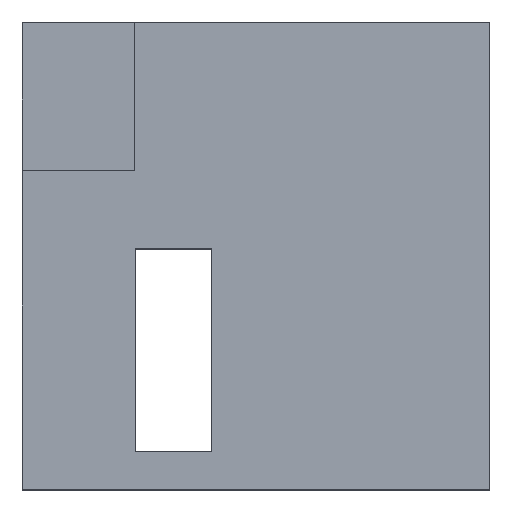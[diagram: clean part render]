
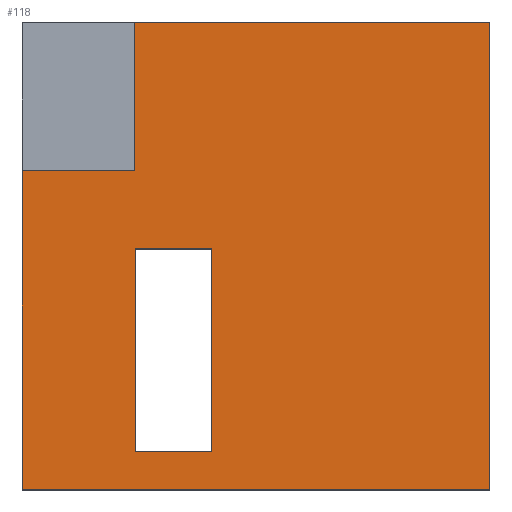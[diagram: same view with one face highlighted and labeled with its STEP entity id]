
A CAD part, top view. The second image highlights one B-rep face of the part: STEP entity #118.
In plain terms, the highlighted planar face has unit normal (0, 0, 1).
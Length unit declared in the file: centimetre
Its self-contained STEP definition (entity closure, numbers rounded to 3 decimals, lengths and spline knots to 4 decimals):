
#7 = EDGE_CURVE ( 'NONE', #47, #10, #600, .T. ) ;
#8 = DIRECTION ( 'NONE',  ( 0., 1., 0. ) ) ;
#10 = VERTEX_POINT ( 'NONE', #172 ) ;
#14 = CARTESIAN_POINT ( 'NONE',  ( 0., 1000., 1000. ) ) ;
#27 = DIRECTION ( 'NONE',  ( -1., 0., 0. ) ) ;
#28 = EDGE_LOOP ( 'NONE', ( #518, #77, #84, #473 ) ) ;
#32 = FACE_OUTER_BOUND ( 'NONE', #163, .T. ) ;
#35 = CARTESIAN_POINT ( 'NONE',  ( 242.1861, 79.9938, 1000. ) ) ;
#36 = VERTEX_POINT ( 'NONE', #323 ) ;
#37 = CARTESIAN_POINT ( 'NONE',  ( 1000., 0., 1000. ) ) ;
#47 = VERTEX_POINT ( 'NONE', #361 ) ;
#59 = LINE ( 'NONE', #248, #70 ) ;
#68 = VECTOR ( 'NONE', #8, 100. ) ;
#70 = VECTOR ( 'NONE', #202, 100. ) ;
#71 = VECTOR ( 'NONE', #174, 100. ) ;
#77 = ORIENTED_EDGE ( 'NONE', *, *, #224, .F. ) ;
#84 = ORIENTED_EDGE ( 'NONE', *, *, #326, .F. ) ;
#99 = CARTESIAN_POINT ( 'NONE',  ( 1000., 1000., 1000. ) ) ;
#101 = ORIENTED_EDGE ( 'NONE', *, *, #110, .T. ) ;
#104 = LINE ( 'NONE', #360, #227 ) ;
#110 = EDGE_CURVE ( 'NONE', #400, #341, #192, .T. ) ;
#118 = ADVANCED_FACE ( 'NONE', ( #572, #32 ), #291, .T. ) ;
#122 = LINE ( 'NONE', #363, #228 ) ;
#146 = DIRECTION ( 'NONE',  ( 1., 0., 0. ) ) ;
#162 = EDGE_CURVE ( 'NONE', #476, #279, #577, .T. ) ;
#163 = EDGE_LOOP ( 'NONE', ( #513, #332, #546, #412, #101, #284 ) ) ;
#169 = CARTESIAN_POINT ( 'NONE',  ( 405.6495, 515.4515, 1000. ) ) ;
#172 = CARTESIAN_POINT ( 'NONE',  ( 405.6495, 79.9938, 1000. ) ) ;
#174 = DIRECTION ( 'NONE',  ( 0., -1., 0. ) ) ;
#181 = EDGE_CURVE ( 'NONE', #279, #400, #59, .T. ) ;
#185 = VERTEX_POINT ( 'NONE', #521 ) ;
#192 = LINE ( 'NONE', #99, #68 ) ;
#202 = DIRECTION ( 'NONE',  ( 1., 0., 0. ) ) ;
#208 = DIRECTION ( 'NONE',  ( -1., 0., 0. ) ) ;
#212 = EDGE_CURVE ( 'NONE', #476, #36, #280, .T. ) ;
#215 = CARTESIAN_POINT ( 'NONE',  ( 242.1861, 515.4515, 1000. ) ) ;
#218 = VECTOR ( 'NONE', #208, 100. ) ;
#224 = EDGE_CURVE ( 'NONE', #398, #244, #444, .T. ) ;
#227 = VECTOR ( 'NONE', #27, 100. ) ;
#228 = VECTOR ( 'NONE', #548, 100. ) ;
#238 = DIRECTION ( 'NONE',  ( 1., 0., 0. ) ) ;
#241 = DIRECTION ( 'NONE',  ( 0., 0., 1. ) ) ;
#244 = VERTEX_POINT ( 'NONE', #534 ) ;
#248 = CARTESIAN_POINT ( 'NONE',  ( 0., 0., 1000. ) ) ;
#266 = EDGE_CURVE ( 'NONE', #341, #185, #104, .T. ) ;
#275 = VECTOR ( 'NONE', #238, 100. ) ;
#279 = VERTEX_POINT ( 'NONE', #301 ) ;
#280 = LINE ( 'NONE', #477, #275 ) ;
#284 = ORIENTED_EDGE ( 'NONE', *, *, #266, .T. ) ;
#288 = CARTESIAN_POINT ( 'NONE',  ( 0., 681.743, 1000. ) ) ;
#291 = PLANE ( 'NONE',  #419 ) ;
#301 = CARTESIAN_POINT ( 'NONE',  ( 0., 0., 1000. ) ) ;
#323 = CARTESIAN_POINT ( 'NONE',  ( 239.9784, 681.743, 1000. ) ) ;
#326 = EDGE_CURVE ( 'NONE', #10, #398, #591, .T. ) ;
#332 = ORIENTED_EDGE ( 'NONE', *, *, #212, .F. ) ;
#341 = VERTEX_POINT ( 'NONE', #349 ) ;
#349 = CARTESIAN_POINT ( 'NONE',  ( 1000., 1000., 1000. ) ) ;
#360 = CARTESIAN_POINT ( 'NONE',  ( 0., 1000., 1000. ) ) ;
#361 = CARTESIAN_POINT ( 'NONE',  ( 242.1861, 79.9938, 1000. ) ) ;
#363 = CARTESIAN_POINT ( 'NONE',  ( 239.9784, 681.743, 1000. ) ) ;
#391 = DIRECTION ( 'NONE',  ( 0., -1., 0. ) ) ;
#398 = VERTEX_POINT ( 'NONE', #169 ) ;
#400 = VERTEX_POINT ( 'NONE', #37 ) ;
#402 = VECTOR ( 'NONE', #391, 100. ) ;
#410 = CARTESIAN_POINT ( 'NONE',  ( 405.6495, 79.9938, 1000. ) ) ;
#412 = ORIENTED_EDGE ( 'NONE', *, *, #181, .T. ) ;
#413 = EDGE_CURVE ( 'NONE', #244, #47, #457, .T. ) ;
#419 = AXIS2_PLACEMENT_3D ( 'NONE', #440, #241, #146 ) ;
#426 = VECTOR ( 'NONE', #593, 100. ) ;
#440 = CARTESIAN_POINT ( 'NONE',  ( 0., 0., 1000. ) ) ;
#444 = LINE ( 'NONE', #215, #218 ) ;
#453 = EDGE_CURVE ( 'NONE', #36, #185, #122, .T. ) ;
#457 = LINE ( 'NONE', #35, #71 ) ;
#458 = DIRECTION ( 'NONE',  ( 1., 0., 0. ) ) ;
#466 = VECTOR ( 'NONE', #458, 100. ) ;
#473 = ORIENTED_EDGE ( 'NONE', *, *, #7, .F. ) ;
#476 = VERTEX_POINT ( 'NONE', #288 ) ;
#477 = CARTESIAN_POINT ( 'NONE',  ( 0., 681.743, 1000. ) ) ;
#505 = CARTESIAN_POINT ( 'NONE',  ( 242.1861, 79.9938, 1000. ) ) ;
#513 = ORIENTED_EDGE ( 'NONE', *, *, #453, .F. ) ;
#518 = ORIENTED_EDGE ( 'NONE', *, *, #413, .F. ) ;
#521 = CARTESIAN_POINT ( 'NONE',  ( 239.9784, 1000., 1000. ) ) ;
#534 = CARTESIAN_POINT ( 'NONE',  ( 242.1861, 515.4515, 1000. ) ) ;
#546 = ORIENTED_EDGE ( 'NONE', *, *, #162, .T. ) ;
#548 = DIRECTION ( 'NONE',  ( 0., 1., 0. ) ) ;
#572 = FACE_BOUND ( 'NONE', #28, .T. ) ;
#577 = LINE ( 'NONE', #14, #402 ) ;
#591 = LINE ( 'NONE', #410, #426 ) ;
#593 = DIRECTION ( 'NONE',  ( 0., 1., 0. ) ) ;
#600 = LINE ( 'NONE', #505, #466 ) ;
